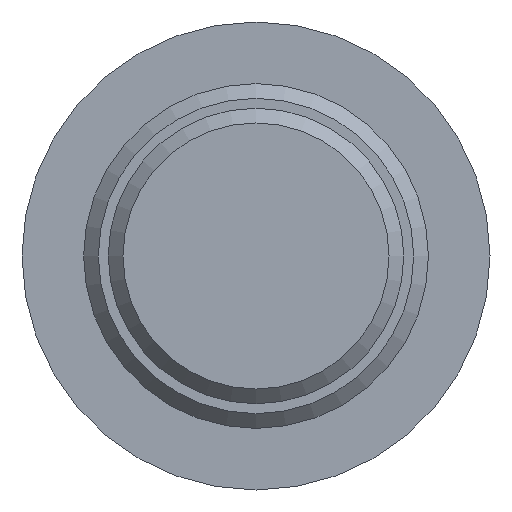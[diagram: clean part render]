
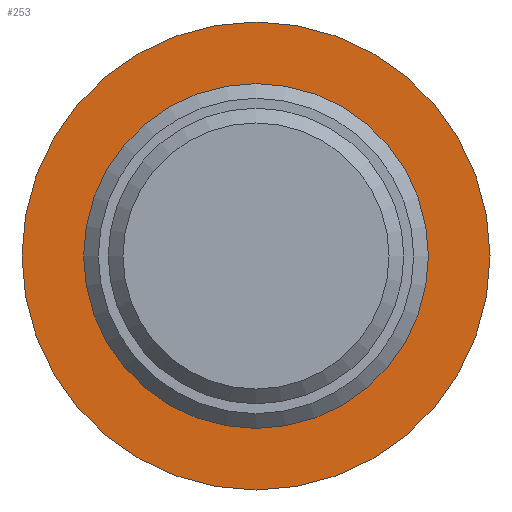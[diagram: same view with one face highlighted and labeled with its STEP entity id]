
A CAD part, front view. The second image highlights one B-rep face of the part: STEP entity #253.
In plain terms, the highlighted planar face has unit normal (0, -1, 0).
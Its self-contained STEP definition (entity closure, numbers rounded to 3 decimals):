
#101=CARTESIAN_POINT('',(-4.75,27.0,0.0));
#102=VERTEX_POINT('',#101);
#103=CARTESIAN_POINT('',(0.0,27.0,0.0));
#104=DIRECTION('',(0.0,1.0,0.0));
#105=DIRECTION('',(-1.0,0.0,0.0));
#106=AXIS2_PLACEMENT_3D('',#103,#104,#105);
#107=CIRCLE('',#106,4.75);
#108=EDGE_CURVE('',#102,#102,#107,.T.);
#178=CARTESIAN_POINT('',(-3.5,27.0,0.0));
#179=VERTEX_POINT('',#178);
#180=CARTESIAN_POINT('',(0.0,27.0,0.0));
#181=DIRECTION('',(0.0,1.0,0.0));
#182=DIRECTION('',(-1.0,0.0,0.0));
#183=AXIS2_PLACEMENT_3D('',#180,#181,#182);
#184=CIRCLE('',#183,3.5);
#185=EDGE_CURVE('',#179,#179,#184,.T.);
#242=CARTESIAN_POINT('',(-4.125,27.0,0.0));
#243=DIRECTION('',(0.0,-1.0,0.0));
#244=DIRECTION('',(0.0,0.0,-1.0));
#245=AXIS2_PLACEMENT_3D('',#242,#243,#244);
#246=PLANE('',#245);
#247=ORIENTED_EDGE('',*,*,#108,.F.);
#248=EDGE_LOOP('',(#247));
#249=FACE_OUTER_BOUND('',#248,.T.);
#250=ORIENTED_EDGE('',*,*,#185,.T.);
#251=EDGE_LOOP('',(#250));
#252=FACE_BOUND('',#251,.T.);
#253=ADVANCED_FACE('',(#249,#252),#246,.T.);
